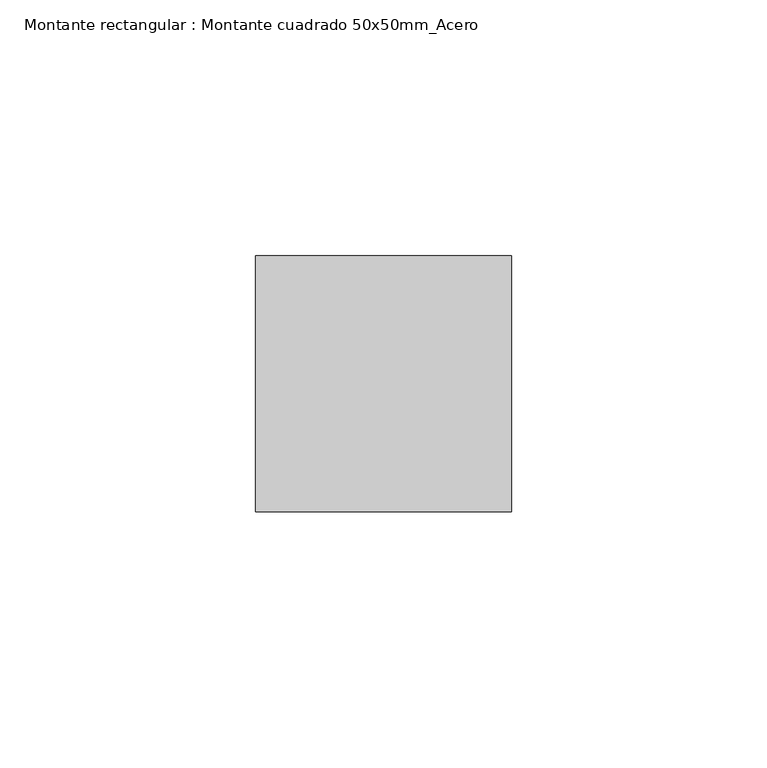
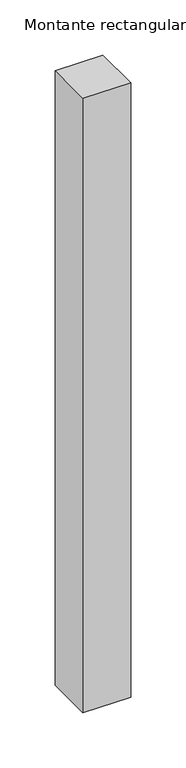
"""IFC4 building model written with IfcOpenShell, lengths in millimetres: member geometry, Montante rectangular : Montante cuadrado 50x50mm_Acero."""

from ifc_helpers import new_model, si_unit, frame, origin, place, context, project, spatial, polyline, outline, extrude, source, transform, mapped, element, save


def montante_rectangular_montante_cuadrado_50x50mm_acero_14ec3dc0(model_context):
    return source(origin(), model_context, "Body", "SweptSolid", [
        extrude(outline(polyline([(0.0, 0.0), (-50.0, 0.0), (-50.0, 50.0), (0.0, 50.0), (0.0, 0.0)])), frame((0.0, 0.0, -680.0), z_axis=(0.0, 0.0, 1.0), x_axis=(1.0, 0.0, 0.0)), (0.0, 0.0, 1.0), 680.0),
    ])


if __name__ == "__main__":
    model = new_model("IFC4")
    model_context = context("Model", 3, world=origin())
    ifc_project = project(units=[si_unit("LENGTHUNIT", "METRE", prefix="MILLI")], contexts=[model_context])
    site = spatial("IfcSite", under=ifc_project)
    building = spatial("IfcBuilding", under=site)
    placement = place(None, origin())
    montante_rectangular_montante_cuadrado_50x50mm_acero_shape = montante_rectangular_montante_cuadrado_50x50mm_acero_14ec3dc0(model_context)
    element("IfcMember", 1, ObjectType="Montante rectangular : Montante cuadrado 50x50mm_Acero", at=placement, inside=building, context=model_context, shape_type="MappedRepresentation", body=[
        mapped(montante_rectangular_montante_cuadrado_50x50mm_acero_shape, transform((0.0, 0.0, 0.0), x_axis=(1.0, 0.0, 0.0), y_axis=(0.0, 1.0, 0.0), z_axis=(0.0, 0.0, 1.0))),
    ])
    save(model, "model.ifc")
